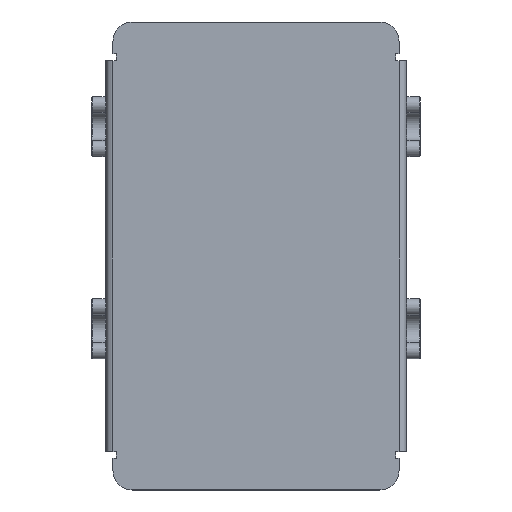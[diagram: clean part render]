
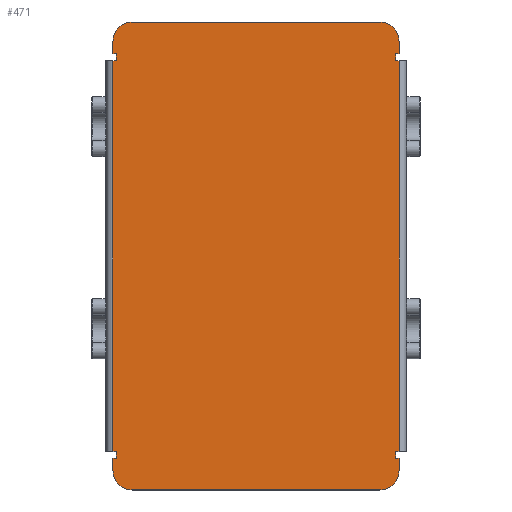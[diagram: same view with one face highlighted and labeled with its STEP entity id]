
A CAD part, top view. The second image highlights one B-rep face of the part: STEP entity #471.
In plain terms, the highlighted planar face has unit normal (0, 0, 1).
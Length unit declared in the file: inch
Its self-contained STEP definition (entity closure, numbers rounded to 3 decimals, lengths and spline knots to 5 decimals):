
#241=CARTESIAN_POINT('',(-1.6075,0.0,0.09));
#242=VERTEX_POINT('',#241);
#243=CARTESIAN_POINT('',(-1.8575,0.25,0.09));
#244=VERTEX_POINT('',#243);
#245=CARTESIAN_POINT('',(-1.6075,0.25,0.09));
#246=DIRECTION('',(0.0,0.0,-1.0));
#247=DIRECTION('',(-0.707,-0.707,0.0));
#248=AXIS2_PLACEMENT_3D('',#245,#246,#247);
#249=CIRCLE('',#248,0.25);
#250=EDGE_CURVE('',#242,#244,#249,.T.);
#278=CARTESIAN_POINT('',(0.,3.0375,0.09));
#279=DIRECTION('',(0.0,0.0,1.0));
#280=DIRECTION('',(1.0,0.0,0.0));
#281=AXIS2_PLACEMENT_3D('',#278,#279,#280);
#282=PLANE('',#281);
#283=ORIENTED_EDGE('',*,*,#250,.F.);
#284=CARTESIAN_POINT('',(1.6075,0.0,0.09));
#285=VERTEX_POINT('',#284);
#286=CARTESIAN_POINT('',(1.6075,0.0,0.09));
#287=DIRECTION('',(-1.0,0.0,0.0));
#288=VECTOR('',#287,3.215);
#289=LINE('',#286,#288);
#290=EDGE_CURVE('',#285,#242,#289,.T.);
#291=ORIENTED_EDGE('',*,*,#290,.F.);
#292=CARTESIAN_POINT('',(1.8575,0.25,0.09));
#293=VERTEX_POINT('',#292);
#294=CARTESIAN_POINT('',(1.6075,0.25,0.09));
#295=DIRECTION('',(0.0,0.0,-1.));
#296=DIRECTION('',(0.707,-0.707,0.0));
#297=AXIS2_PLACEMENT_3D('',#294,#295,#296);
#298=CIRCLE('',#297,0.25);
#299=EDGE_CURVE('',#293,#285,#298,.T.);
#300=ORIENTED_EDGE('',*,*,#299,.F.);
#301=CARTESIAN_POINT('',(1.8575,0.41,0.09));
#302=VERTEX_POINT('',#301);
#303=CARTESIAN_POINT('',(1.8575,0.41,0.09));
#304=DIRECTION('',(0.0,-1.0,0.0));
#305=VECTOR('',#304,0.16);
#306=LINE('',#303,#305);
#307=EDGE_CURVE('',#302,#293,#306,.T.);
#308=ORIENTED_EDGE('',*,*,#307,.F.);
#309=CARTESIAN_POINT('',(1.8115,0.41,0.09));
#310=VERTEX_POINT('',#309);
#311=CARTESIAN_POINT('',(1.8575,0.41,0.09));
#312=DIRECTION('',(-1.0,0.0,0.0));
#313=VECTOR('',#312,0.046);
#314=LINE('',#311,#313);
#315=EDGE_CURVE('',#302,#310,#314,.T.);
#316=ORIENTED_EDGE('',*,*,#315,.T.);
#317=CARTESIAN_POINT('',(1.8115,0.5,0.09));
#318=VERTEX_POINT('',#317);
#319=CARTESIAN_POINT('',(1.8115,0.41,0.09));
#320=DIRECTION('',(0.0,1.0,0.0));
#321=VECTOR('',#320,0.09);
#322=LINE('',#319,#321);
#323=EDGE_CURVE('',#310,#318,#322,.T.);
#324=ORIENTED_EDGE('',*,*,#323,.T.);
#325=CARTESIAN_POINT('',(1.8565,0.5,0.09));
#326=VERTEX_POINT('',#325);
#327=CARTESIAN_POINT('',(1.8115,0.5,0.09));
#328=DIRECTION('',(1.0,0.0,0.0));
#329=VECTOR('',#328,0.045);
#330=LINE('',#327,#329);
#331=EDGE_CURVE('',#318,#326,#330,.T.);
#332=ORIENTED_EDGE('',*,*,#331,.T.);
#333=CARTESIAN_POINT('',(1.8565,5.575,0.09));
#334=VERTEX_POINT('',#333);
#335=CARTESIAN_POINT('',(1.8565,0.5,0.09));
#336=DIRECTION('',(0.0,1.0,0.0));
#337=VECTOR('',#336,5.075);
#338=LINE('',#335,#337);
#339=EDGE_CURVE('',#326,#334,#338,.T.);
#340=ORIENTED_EDGE('',*,*,#339,.T.);
#341=CARTESIAN_POINT('',(1.8115,5.575,0.09));
#342=VERTEX_POINT('',#341);
#343=CARTESIAN_POINT('',(1.8565,5.575,0.09));
#344=DIRECTION('',(-1.0,0.0,0.0));
#345=VECTOR('',#344,0.045);
#346=LINE('',#343,#345);
#347=EDGE_CURVE('',#334,#342,#346,.T.);
#348=ORIENTED_EDGE('',*,*,#347,.T.);
#349=CARTESIAN_POINT('',(1.8115,5.665,0.09));
#350=VERTEX_POINT('',#349);
#351=CARTESIAN_POINT('',(1.8115,5.575,0.09));
#352=DIRECTION('',(0.0,1.0,0.0));
#353=VECTOR('',#352,0.09);
#354=LINE('',#351,#353);
#355=EDGE_CURVE('',#342,#350,#354,.T.);
#356=ORIENTED_EDGE('',*,*,#355,.T.);
#357=CARTESIAN_POINT('',(1.8575,5.665,0.09));
#358=VERTEX_POINT('',#357);
#359=CARTESIAN_POINT('',(1.8115,5.665,0.09));
#360=DIRECTION('',(1.0,0.0,0.0));
#361=VECTOR('',#360,0.046);
#362=LINE('',#359,#361);
#363=EDGE_CURVE('',#350,#358,#362,.T.);
#364=ORIENTED_EDGE('',*,*,#363,.T.);
#365=CARTESIAN_POINT('',(1.8575,5.825,0.09));
#366=VERTEX_POINT('',#365);
#367=CARTESIAN_POINT('',(1.8575,5.825,0.09));
#368=DIRECTION('',(0.0,-1.0,0.0));
#369=VECTOR('',#368,0.16);
#370=LINE('',#367,#369);
#371=EDGE_CURVE('',#366,#358,#370,.T.);
#372=ORIENTED_EDGE('',*,*,#371,.F.);
#373=CARTESIAN_POINT('',(1.6075,6.075,0.09));
#374=VERTEX_POINT('',#373);
#375=CARTESIAN_POINT('',(1.6075,5.825,0.09));
#376=DIRECTION('',(0.0,0.0,-1.0));
#377=DIRECTION('',(0.707,0.707,0.0));
#378=AXIS2_PLACEMENT_3D('',#375,#376,#377);
#379=CIRCLE('',#378,0.25);
#380=EDGE_CURVE('',#374,#366,#379,.T.);
#381=ORIENTED_EDGE('',*,*,#380,.F.);
#382=CARTESIAN_POINT('',(-1.6075,6.075,0.09));
#383=VERTEX_POINT('',#382);
#384=CARTESIAN_POINT('',(-1.6075,6.075,0.09));
#385=DIRECTION('',(1.0,0.0,0.0));
#386=VECTOR('',#385,3.215);
#387=LINE('',#384,#386);
#388=EDGE_CURVE('',#383,#374,#387,.T.);
#389=ORIENTED_EDGE('',*,*,#388,.F.);
#390=CARTESIAN_POINT('',(-1.8575,5.825,0.09));
#391=VERTEX_POINT('',#390);
#392=CARTESIAN_POINT('',(-1.6075,5.825,0.09));
#393=DIRECTION('',(0.0,0.0,-1.0));
#394=DIRECTION('',(-0.707,0.707,0.0));
#395=AXIS2_PLACEMENT_3D('',#392,#393,#394);
#396=CIRCLE('',#395,0.25);
#397=EDGE_CURVE('',#391,#383,#396,.T.);
#398=ORIENTED_EDGE('',*,*,#397,.F.);
#399=CARTESIAN_POINT('',(-1.8575,5.665,0.09));
#400=VERTEX_POINT('',#399);
#401=CARTESIAN_POINT('',(-1.8575,5.665,0.09));
#402=DIRECTION('',(0.0,1.0,0.0));
#403=VECTOR('',#402,0.16);
#404=LINE('',#401,#403);
#405=EDGE_CURVE('',#400,#391,#404,.T.);
#406=ORIENTED_EDGE('',*,*,#405,.F.);
#407=CARTESIAN_POINT('',(-1.8115,5.665,0.09));
#408=VERTEX_POINT('',#407);
#409=CARTESIAN_POINT('',(-1.8575,5.665,0.09));
#410=DIRECTION('',(1.0,0.0,0.0));
#411=VECTOR('',#410,0.046);
#412=LINE('',#409,#411);
#413=EDGE_CURVE('',#400,#408,#412,.T.);
#414=ORIENTED_EDGE('',*,*,#413,.T.);
#415=CARTESIAN_POINT('',(-1.8115,5.575,0.09));
#416=VERTEX_POINT('',#415);
#417=CARTESIAN_POINT('',(-1.8115,5.665,0.09));
#418=DIRECTION('',(0.0,-1.0,0.0));
#419=VECTOR('',#418,0.09);
#420=LINE('',#417,#419);
#421=EDGE_CURVE('',#408,#416,#420,.T.);
#422=ORIENTED_EDGE('',*,*,#421,.T.);
#423=CARTESIAN_POINT('',(-1.8565,5.575,0.09));
#424=VERTEX_POINT('',#423);
#425=CARTESIAN_POINT('',(-1.8115,5.575,0.09));
#426=DIRECTION('',(-1.0,0.0,0.0));
#427=VECTOR('',#426,0.045);
#428=LINE('',#425,#427);
#429=EDGE_CURVE('',#416,#424,#428,.T.);
#430=ORIENTED_EDGE('',*,*,#429,.T.);
#431=CARTESIAN_POINT('',(-1.8565,0.5,0.09));
#432=VERTEX_POINT('',#431);
#433=CARTESIAN_POINT('',(-1.8565,5.575,0.09));
#434=DIRECTION('',(0.0,-1.0,0.0));
#435=VECTOR('',#434,5.075);
#436=LINE('',#433,#435);
#437=EDGE_CURVE('',#424,#432,#436,.T.);
#438=ORIENTED_EDGE('',*,*,#437,.T.);
#439=CARTESIAN_POINT('',(-1.8115,0.5,0.09));
#440=VERTEX_POINT('',#439);
#441=CARTESIAN_POINT('',(-1.8565,0.5,0.09));
#442=DIRECTION('',(1.0,0.0,0.0));
#443=VECTOR('',#442,0.045);
#444=LINE('',#441,#443);
#445=EDGE_CURVE('',#432,#440,#444,.T.);
#446=ORIENTED_EDGE('',*,*,#445,.T.);
#447=CARTESIAN_POINT('',(-1.8115,0.41,0.09));
#448=VERTEX_POINT('',#447);
#449=CARTESIAN_POINT('',(-1.8115,0.5,0.09));
#450=DIRECTION('',(0.0,-1.0,0.0));
#451=VECTOR('',#450,0.09);
#452=LINE('',#449,#451);
#453=EDGE_CURVE('',#440,#448,#452,.T.);
#454=ORIENTED_EDGE('',*,*,#453,.T.);
#455=CARTESIAN_POINT('',(-1.8575,0.41,0.09));
#456=VERTEX_POINT('',#455);
#457=CARTESIAN_POINT('',(-1.8115,0.41,0.09));
#458=DIRECTION('',(-1.0,0.0,0.0));
#459=VECTOR('',#458,0.046);
#460=LINE('',#457,#459);
#461=EDGE_CURVE('',#448,#456,#460,.T.);
#462=ORIENTED_EDGE('',*,*,#461,.T.);
#463=CARTESIAN_POINT('',(-1.8575,0.25,0.09));
#464=DIRECTION('',(0.0,1.0,0.0));
#465=VECTOR('',#464,0.16);
#466=LINE('',#463,#465);
#467=EDGE_CURVE('',#244,#456,#466,.T.);
#468=ORIENTED_EDGE('',*,*,#467,.F.);
#469=EDGE_LOOP('',(#283,#291,#300,#308,#316,#324,#332,#340,#348,#356,#364,#372,#381,#389,#398,#406,#414,#422,#430,#438,#446,#454,#462,#468));
#470=FACE_OUTER_BOUND('',#469,.T.);
#471=ADVANCED_FACE('',(#470),#282,.T.);
